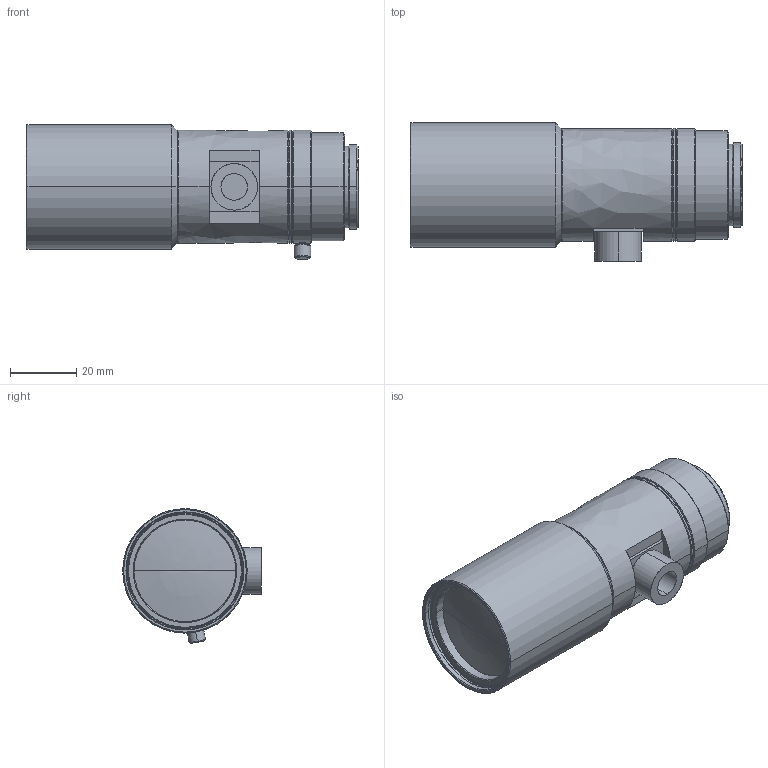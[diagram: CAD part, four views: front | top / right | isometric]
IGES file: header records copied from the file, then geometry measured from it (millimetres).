
Start section: SolidWorks IGES file using analytic representation for surfaces
Global section: file name: C:\Users\tsuji_vst\Documents\【図面】\_3D\00 VST\VS-TCT\TCT05-65\VS-TCT05-65CO_S.IGS; native system: SolidWorks 2016; preprocessor: SolidWorks 2016; author: tsuji_vst; date: 160830.161620; units: millimetre
Bounding box: 99.97 x 41.75 x 40.6 mm (x, y, z)
Surface area: 16787.3 mm2 (no closed solid volume)
Topology: 0 solids, 0 shells, 132 faces, 2198 edges, 2196 vertices
Faces by surface type: revolution 104, bspline 28
